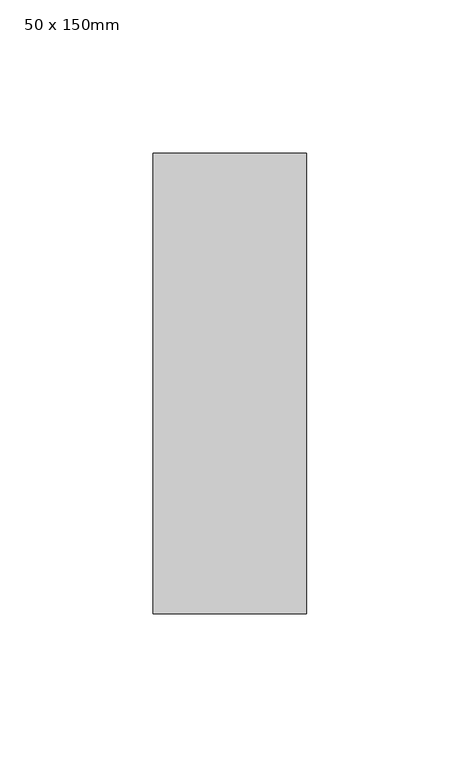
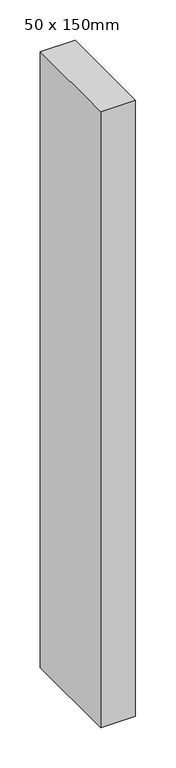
"""IFC4 building model written with IfcOpenShell, lengths in millimetres: member geometry, 矩形豎框 : 50 x 150mm."""

from ifc_helpers import new_model, si_unit, frame, origin, place, context, project, spatial, polyline, outline, extrude, source, transform, mapped, element, save


def member_50_x_150mm_30901565(model_context):
    return source(origin(), model_context, "Body", "SweptSolid", [
        extrude(outline(polyline([(25.0, 75.0), (25.0, -75.0), (-25.0, -75.0), (-25.0, 75.0), (25.0, 75.0)])), frame((0.0, 0.0, -935.0), z_axis=(0.0, 0.0, 1.0), x_axis=(1.0, 0.0, 0.0)), (0.0, 0.0, 1.0), 935.0),
    ])


if __name__ == "__main__":
    model = new_model("IFC4")
    model_context = context("Model", 3, world=origin())
    ifc_project = project(units=[si_unit("LENGTHUNIT", "METRE", prefix="MILLI")], contexts=[model_context])
    site = spatial("IfcSite", under=ifc_project)
    building = spatial("IfcBuilding", under=site)
    placement = place(None, origin())
    member_50_x_150mm_shape = member_50_x_150mm_30901565(model_context)
    element("IfcMember", 1, ObjectType="矩形豎框 : 50 x 150mm", at=placement, inside=building, context=model_context, shape_type="MappedRepresentation", body=[
        mapped(member_50_x_150mm_shape, transform((0.0, 0.0, 0.0), x_axis=(1.0, 0.0, 0.0), y_axis=(0.0, 1.0, 0.0), z_axis=(0.0, 0.0, 1.0))),
    ])
    save(model, "model.ifc")
